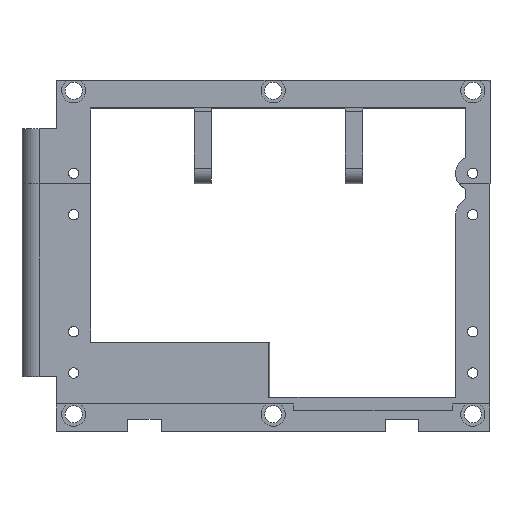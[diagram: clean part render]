
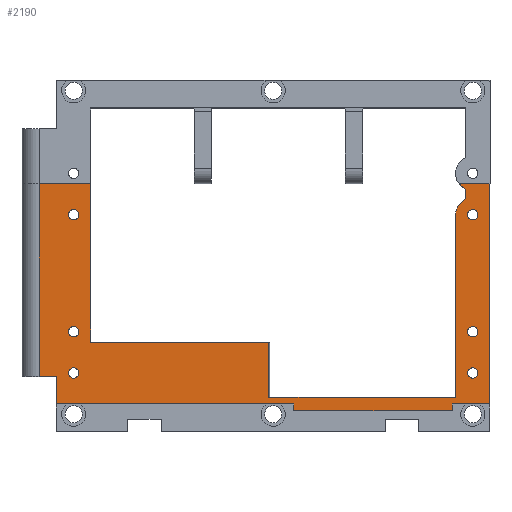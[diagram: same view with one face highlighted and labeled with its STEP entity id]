
A CAD part, top view. The second image highlights one B-rep face of the part: STEP entity #2190.
In plain terms, the highlighted planar face has unit normal (0, 0, 1).
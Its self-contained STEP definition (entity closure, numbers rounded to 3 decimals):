
#31=FACE_BOUND('',#344,.T.);
#32=FACE_BOUND('',#345,.T.);
#33=FACE_BOUND('',#346,.T.);
#34=FACE_BOUND('',#347,.T.);
#35=FACE_BOUND('',#348,.T.);
#36=FACE_BOUND('',#349,.T.);
#87=CIRCLE('',#2258,2.5);
#91=CIRCLE('',#2266,0.75);
#93=CIRCLE('',#2269,0.75);
#96=CIRCLE('',#2275,2.5);
#131=CIRCLE('',#2359,0.75);
#132=CIRCLE('',#2360,0.75);
#133=CIRCLE('',#2361,0.75);
#134=CIRCLE('',#2362,0.75);
#220=FACE_OUTER_BOUND('',#343,.T.);
#343=EDGE_LOOP('',(#1768,#1769,#1770,#1771,#1772,#1773,#1774,#1775,#1776,
#1777,#1778,#1779,#1780,#1781,#1782,#1783,#1784,#1785,#1786));
#344=EDGE_LOOP('',(#1787));
#345=EDGE_LOOP('',(#1788));
#346=EDGE_LOOP('',(#1789));
#347=EDGE_LOOP('',(#1790));
#348=EDGE_LOOP('',(#1791));
#349=EDGE_LOOP('',(#1792));
#412=LINE('',#3065,#655);
#421=LINE('',#3091,#664);
#426=LINE('',#3119,#669);
#552=LINE('',#3438,#795);
#556=LINE('',#3447,#799);
#559=LINE('',#3451,#802);
#566=LINE('',#3465,#809);
#569=LINE('',#3472,#812);
#570=LINE('',#3473,#813);
#571=LINE('',#3475,#814);
#572=LINE('',#3477,#815);
#573=LINE('',#3479,#816);
#574=LINE('',#3481,#817);
#575=LINE('',#3483,#818);
#576=LINE('',#3484,#819);
#577=LINE('',#3486,#820);
#578=LINE('',#3487,#821);
#655=VECTOR('',#2448,10.);
#664=VECTOR('',#2471,10.);
#669=VECTOR('',#2502,10.);
#795=VECTOR('',#2786,10.);
#799=VECTOR('',#2792,10.);
#802=VECTOR('',#2797,10.);
#809=VECTOR('',#2806,10.);
#812=VECTOR('',#2815,10.);
#813=VECTOR('',#2816,10.);
#814=VECTOR('',#2817,10.);
#815=VECTOR('',#2818,10.);
#816=VECTOR('',#2819,10.);
#817=VECTOR('',#2820,10.);
#818=VECTOR('',#2821,10.);
#819=VECTOR('',#2822,10.);
#820=VECTOR('',#2823,10.);
#821=VECTOR('',#2824,10.);
#897=VERTEX_POINT('',#3062);
#898=VERTEX_POINT('',#3064);
#899=VERTEX_POINT('',#3068);
#904=VERTEX_POINT('',#3077);
#908=VERTEX_POINT('',#3089);
#912=VERTEX_POINT('',#3101);
#914=VERTEX_POINT('',#3107);
#917=VERTEX_POINT('',#3117);
#918=VERTEX_POINT('',#3118);
#1031=VERTEX_POINT('',#3435);
#1032=VERTEX_POINT('',#3437);
#1035=VERTEX_POINT('',#3444);
#1036=VERTEX_POINT('',#3446);
#1042=VERTEX_POINT('',#3463);
#1043=VERTEX_POINT('',#3471);
#1044=VERTEX_POINT('',#3474);
#1045=VERTEX_POINT('',#3476);
#1046=VERTEX_POINT('',#3478);
#1047=VERTEX_POINT('',#3480);
#1048=VERTEX_POINT('',#3482);
#1049=VERTEX_POINT('',#3485);
#1050=VERTEX_POINT('',#3488);
#1051=VERTEX_POINT('',#3490);
#1052=VERTEX_POINT('',#3492);
#1053=VERTEX_POINT('',#3494);
#1108=EDGE_CURVE('',#897,#898,#412,.T.);
#1115=EDGE_CURVE('',#904,#899,#87,.T.);
#1121=EDGE_CURVE('',#904,#908,#421,.T.);
#1127=EDGE_CURVE('',#912,#912,#91,.T.);
#1130=EDGE_CURVE('',#914,#914,#93,.T.);
#1134=EDGE_CURVE('',#917,#918,#426,.T.);
#1138=EDGE_CURVE('',#908,#918,#96,.T.);
#1295=EDGE_CURVE('',#1031,#1032,#552,.T.);
#1299=EDGE_CURVE('',#1035,#1036,#556,.T.);
#1302=EDGE_CURVE('',#1032,#1035,#559,.T.);
#1309=EDGE_CURVE('',#1042,#1031,#566,.T.);
#1312=EDGE_CURVE('',#1043,#917,#569,.T.);
#1313=EDGE_CURVE('',#898,#1043,#570,.T.);
#1314=EDGE_CURVE('',#1044,#897,#571,.T.);
#1315=EDGE_CURVE('',#1045,#1044,#572,.T.);
#1316=EDGE_CURVE('',#1046,#1045,#573,.T.);
#1317=EDGE_CURVE('',#1047,#1046,#574,.T.);
#1318=EDGE_CURVE('',#1048,#1047,#575,.T.);
#1319=EDGE_CURVE('',#1036,#1048,#576,.T.);
#1320=EDGE_CURVE('',#1049,#1042,#577,.T.);
#1321=EDGE_CURVE('',#899,#1049,#578,.T.);
#1322=EDGE_CURVE('',#1050,#1050,#131,.T.);
#1323=EDGE_CURVE('',#1051,#1051,#132,.T.);
#1324=EDGE_CURVE('',#1052,#1052,#133,.T.);
#1325=EDGE_CURVE('',#1053,#1053,#134,.T.);
#1768=ORIENTED_EDGE('',*,*,#1134,.F.);
#1769=ORIENTED_EDGE('',*,*,#1312,.F.);
#1770=ORIENTED_EDGE('',*,*,#1313,.F.);
#1771=ORIENTED_EDGE('',*,*,#1108,.F.);
#1772=ORIENTED_EDGE('',*,*,#1314,.F.);
#1773=ORIENTED_EDGE('',*,*,#1315,.F.);
#1774=ORIENTED_EDGE('',*,*,#1316,.F.);
#1775=ORIENTED_EDGE('',*,*,#1317,.F.);
#1776=ORIENTED_EDGE('',*,*,#1318,.F.);
#1777=ORIENTED_EDGE('',*,*,#1319,.F.);
#1778=ORIENTED_EDGE('',*,*,#1299,.F.);
#1779=ORIENTED_EDGE('',*,*,#1302,.F.);
#1780=ORIENTED_EDGE('',*,*,#1295,.F.);
#1781=ORIENTED_EDGE('',*,*,#1309,.F.);
#1782=ORIENTED_EDGE('',*,*,#1320,.F.);
#1783=ORIENTED_EDGE('',*,*,#1321,.F.);
#1784=ORIENTED_EDGE('',*,*,#1115,.F.);
#1785=ORIENTED_EDGE('',*,*,#1121,.T.);
#1786=ORIENTED_EDGE('',*,*,#1138,.T.);
#1787=ORIENTED_EDGE('',*,*,#1127,.T.);
#1788=ORIENTED_EDGE('',*,*,#1130,.T.);
#1789=ORIENTED_EDGE('',*,*,#1322,.F.);
#1790=ORIENTED_EDGE('',*,*,#1323,.F.);
#1791=ORIENTED_EDGE('',*,*,#1324,.F.);
#1792=ORIENTED_EDGE('',*,*,#1325,.F.);
#2103=PLANE('',#2358);
#2190=ADVANCED_FACE('',(#220,#31,#32,#33,#34,#35,#36),#2103,.F.);
#2258=AXIS2_PLACEMENT_3D('',#3079,#2460,#2461);
#2266=AXIS2_PLACEMENT_3D('',#3103,#2484,#2485);
#2269=AXIS2_PLACEMENT_3D('',#3109,#2491,#2492);
#2275=AXIS2_PLACEMENT_3D('',#3126,#2508,#2509);
#2358=AXIS2_PLACEMENT_3D('',#3470,#2813,#2814);
#2359=AXIS2_PLACEMENT_3D('',#3489,#2825,#2826);
#2360=AXIS2_PLACEMENT_3D('',#3491,#2827,#2828);
#2361=AXIS2_PLACEMENT_3D('',#3493,#2829,#2830);
#2362=AXIS2_PLACEMENT_3D('',#3495,#2831,#2832);
#2448=DIRECTION('',(1.,0.,0.));
#2460=DIRECTION('center_axis',(0.,0.,-1.));
#2461=DIRECTION('ref_axis',(-1.,0.,0.));
#2471=DIRECTION('',(0.,-1.,0.));
#2484=DIRECTION('center_axis',(0.,0.,-1.));
#2485=DIRECTION('ref_axis',(-1.,0.,0.));
#2491=DIRECTION('center_axis',(0.,0.,-1.));
#2492=DIRECTION('ref_axis',(-1.,0.,0.));
#2502=DIRECTION('',(0.,1.,0.));
#2508=DIRECTION('center_axis',(0.,0.,1.));
#2509=DIRECTION('ref_axis',(-1.,0.,0.));
#2786=DIRECTION('',(0.,-1.,0.));
#2792=DIRECTION('',(0.,1.,0.));
#2797=DIRECTION('',(-1.,0.,0.));
#2806=DIRECTION('',(-1.,0.,0.));
#2813=DIRECTION('center_axis',(0.,0.,-1.));
#2814=DIRECTION('ref_axis',(-1.,0.,0.));
#2815=DIRECTION('',(1.,0.,0.));
#2816=DIRECTION('',(0.,-1.,0.));
#2817=DIRECTION('',(0.,-1.,0.));
#2818=DIRECTION('',(1.,0.,0.));
#2819=DIRECTION('',(0.,1.,0.));
#2820=DIRECTION('',(-1.,0.,0.));
#2821=DIRECTION('',(0.,1.,0.));
#2822=DIRECTION('',(-1.,0.,0.));
#2823=DIRECTION('',(0.,-1.,0.));
#2824=DIRECTION('',(1.,0.,0.));
#2825=DIRECTION('center_axis',(0.,0.,1.));
#2826=DIRECTION('ref_axis',(1.,0.,0.));
#2827=DIRECTION('center_axis',(0.,0.,1.));
#2828=DIRECTION('ref_axis',(1.,0.,0.));
#2829=DIRECTION('center_axis',(0.,0.,1.));
#2830=DIRECTION('ref_axis',(1.,0.,0.));
#2831=DIRECTION('center_axis',(0.,0.,1.));
#2832=DIRECTION('ref_axis',(1.,0.,0.));
#3062=CARTESIAN_POINT('',(-12.5,20.,3.));
#3064=CARTESIAN_POINT('',(13.373,20.,3.));
#3065=CARTESIAN_POINT('',(11.5,20.,3.));
#3068=CARTESIAN_POINT('',(41.,43.,3.));
#3077=CARTESIAN_POINT('',(42.,42.209,3.));
#3079=CARTESIAN_POINT('Origin',(43.,44.5,3.));
#3089=CARTESIAN_POINT('',(42.,40.791,3.));
#3091=CARTESIAN_POINT('',(42.,34.,3.));
#3101=CARTESIAN_POINT('',(43.75,21.5,3.));
#3103=CARTESIAN_POINT('Origin',(43.,21.5,3.));
#3107=CARTESIAN_POINT('',(-14.25,21.5,3.));
#3109=CARTESIAN_POINT('Origin',(-15.,21.5,3.));
#3117=CARTESIAN_POINT('',(40.5,12.,3.));
#3118=CARTESIAN_POINT('',(40.5,38.5,3.));
#3119=CARTESIAN_POINT('',(40.5,41.,3.));
#3126=CARTESIAN_POINT('Origin',(43.,38.5,3.));
#3435=CARTESIAN_POINT('',(40.,11.,3.));
#3437=CARTESIAN_POINT('',(40.,10.,3.));
#3438=CARTESIAN_POINT('',(40.,11.,3.));
#3444=CARTESIAN_POINT('',(17.,10.,3.));
#3446=CARTESIAN_POINT('',(17.,11.,3.));
#3447=CARTESIAN_POINT('',(17.,10.,3.));
#3451=CARTESIAN_POINT('',(40.,10.,3.));
#3463=CARTESIAN_POINT('',(45.5,11.,3.));
#3465=CARTESIAN_POINT('',(47.,11.,3.));
#3470=CARTESIAN_POINT('Origin',(13.,27.,3.));
#3471=CARTESIAN_POINT('',(13.373,12.,3.));
#3472=CARTESIAN_POINT('',(-2.25,12.,3.));
#3473=CARTESIAN_POINT('',(13.373,18.75,3.));
#3474=CARTESIAN_POINT('',(-12.5,43.,3.));
#3475=CARTESIAN_POINT('',(-12.5,26.,3.));
#3476=CARTESIAN_POINT('',(-20.,43.,3.));
#3477=CARTESIAN_POINT('',(-21.,43.,3.));
#3478=CARTESIAN_POINT('',(-20.,15.,3.));
#3479=CARTESIAN_POINT('',(-20.,21.,3.));
#3480=CARTESIAN_POINT('',(-17.5,15.,3.));
#3481=CARTESIAN_POINT('',(-20.5,15.,3.));
#3482=CARTESIAN_POINT('',(-17.5,11.,3.));
#3483=CARTESIAN_POINT('',(-17.5,41.,3.));
#3484=CARTESIAN_POINT('',(47.,11.,3.));
#3485=CARTESIAN_POINT('',(45.5,43.,3.));
#3486=CARTESIAN_POINT('',(45.5,26.,3.));
#3487=CARTESIAN_POINT('',(47.,43.,3.));
#3488=CARTESIAN_POINT('',(-15.75,38.5,3.));
#3489=CARTESIAN_POINT('Origin',(-15.,38.5,3.));
#3490=CARTESIAN_POINT('',(42.25,15.5,3.));
#3491=CARTESIAN_POINT('Origin',(43.,15.5,3.));
#3492=CARTESIAN_POINT('',(42.25,38.5,3.));
#3493=CARTESIAN_POINT('Origin',(43.,38.5,3.));
#3494=CARTESIAN_POINT('',(-15.75,15.5,3.));
#3495=CARTESIAN_POINT('Origin',(-15.,15.5,3.));
